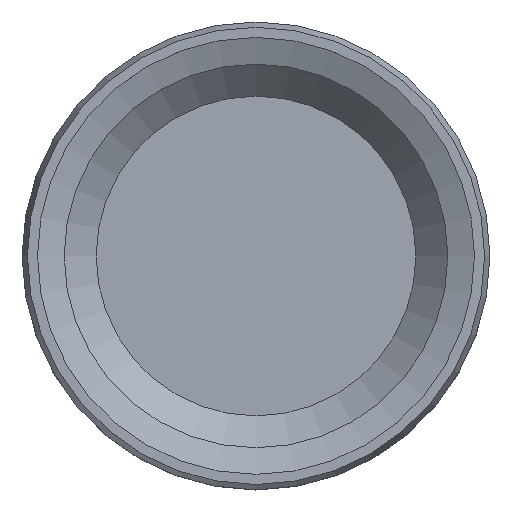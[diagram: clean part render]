
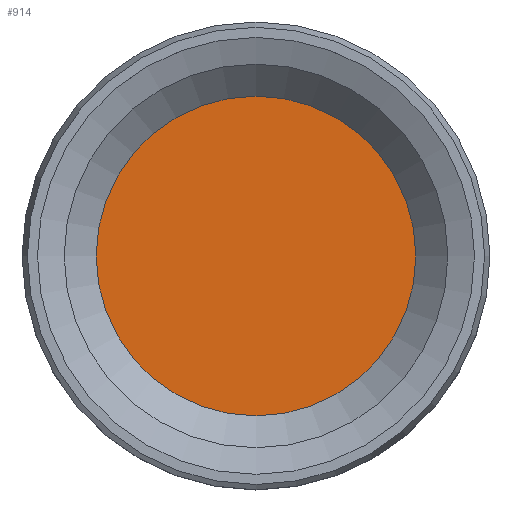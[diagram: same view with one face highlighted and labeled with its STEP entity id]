
A CAD part, top view. The second image highlights one B-rep face of the part: STEP entity #914.
In plain terms, the highlighted planar face has unit normal (0, 0, 1).
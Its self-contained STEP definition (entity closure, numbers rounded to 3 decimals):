
#847 = CONICAL_SURFACE('',#848,36.,0.785);
#848 = AXIS2_PLACEMENT_3D('',#849,#850,#851);
#849 = CARTESIAN_POINT('',(0.,0.,105.5));
#850 = DIRECTION('',(0.,0.,1.));
#851 = DIRECTION('',(1.,0.,0.));
#865 = VERTEX_POINT('',#866);
#866 = CARTESIAN_POINT('',(30.,0.,99.5));
#887 = EDGE_CURVE('',#865,#865,#888,.T.);
#888 = SURFACE_CURVE('',#889,(#894,#901),.PCURVE_S1.);
#889 = CIRCLE('',#890,30.);
#890 = AXIS2_PLACEMENT_3D('',#891,#892,#893);
#891 = CARTESIAN_POINT('',(0.,0.,99.5));
#892 = DIRECTION('',(0.,0.,1.));
#893 = DIRECTION('',(1.,0.,-0.));
#894 = PCURVE('',#847,#895);
#895 = DEFINITIONAL_REPRESENTATION('',(#896),#900);
#896 = LINE('',#897,#898);
#897 = CARTESIAN_POINT('',(0.,-6.));
#898 = VECTOR('',#899,1.);
#899 = DIRECTION('',(1.,-0.));
#900 = ( GEOMETRIC_REPRESENTATION_CONTEXT(2) 
PARAMETRIC_REPRESENTATION_CONTEXT() REPRESENTATION_CONTEXT('2D SPACE',''
  ) );
#901 = PCURVE('',#902,#907);
#902 = PLANE('',#903);
#903 = AXIS2_PLACEMENT_3D('',#904,#905,#906);
#904 = CARTESIAN_POINT('',(0.,0.,99.5));
#905 = DIRECTION('',(0.,0.,1.));
#906 = DIRECTION('',(1.,0.,-0.));
#907 = DEFINITIONAL_REPRESENTATION('',(#908),#912);
#908 = CIRCLE('',#909,30.);
#909 = AXIS2_PLACEMENT_2D('',#910,#911);
#910 = CARTESIAN_POINT('',(0.,0.));
#911 = DIRECTION('',(1.,0.));
#912 = ( GEOMETRIC_REPRESENTATION_CONTEXT(2) 
PARAMETRIC_REPRESENTATION_CONTEXT() REPRESENTATION_CONTEXT('2D SPACE',''
  ) );
#914 = ADVANCED_FACE('',(#915),#902,.T.);
#915 = FACE_BOUND('',#916,.T.);
#916 = EDGE_LOOP('',(#917));
#917 = ORIENTED_EDGE('',*,*,#887,.T.);
